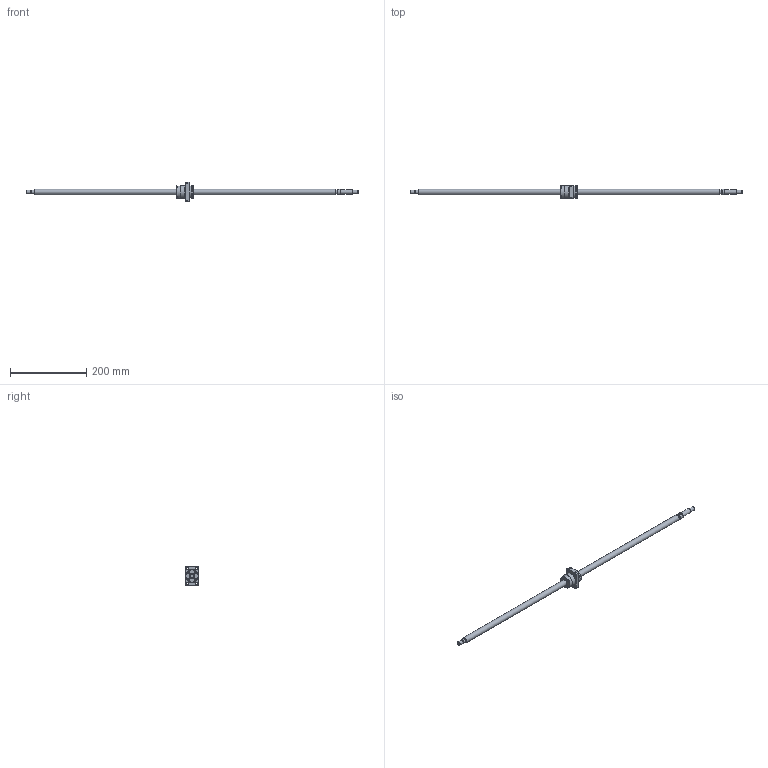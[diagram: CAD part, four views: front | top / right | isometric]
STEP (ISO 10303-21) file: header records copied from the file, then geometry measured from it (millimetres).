
FILE_DESCRIPTION(/* description */ ('STEP AP203'),/* implementation_level */ '2;1');
FILE_NAME(/* name */ 'BNK1510-5.6G0+871LC5Y(416.50)',/* time_stamp */ '2024-07-09T09:23:25+02:00',/* author */ ('License CC BY-ND 4.0'),/* organization */ ('CADENAS'),/* preprocessor_version */ 'ST-DEVELOPER v19.3',/* originating_system */ 'PARTsolutions',/* authorisation */ ' ');
FILE_SCHEMA (('CONFIG_CONTROL_DESIGN'));
Length unit declared in the file: millimetre
Products named in the file (3): BNK1510-5.6G0+871LC5Y(416.50); BNK 1510-5.6G0+871LC5Y Shaft; BNK 1510-5.6G0+871LC5Y0 Nut
Assembly tree (2 placements, depth 2):
  BNK1510-5.6G0+871LC5Y(416.50)
    BNK 1510-5.6G0+871LC5Y Shaft
    BNK 1510-5.6G0+871LC5Y0 Nut
Bounding box: 871 x 34 x 50 mm (x, y, z)
Volume: 184521.1 mm3; surface area: 52333.6 mm2
Topology: 2 solids, 2 shells, 137 faces, 313 edges, 202 vertices
Faces by surface type: plane 76, cylinder 35, cone 20, torus 6
Full cylindrical faces by diameter (mm): 5.188 x1, 5.5 x8, 9.5 x4, 9.6 x1, 10 x3, 12 x1, 13 x1, 15 x3, 30.6 x1, 33 x2, 34 x2
Entity records: 3729 total; most frequent: CARTESIAN_POINT 677, DIRECTION 632, ORIENTED_EDGE 534, EDGE_CURVE 267, AXIS2_PLACEMENT_3D 249, FACE_BOUND 211, EDGE_LOOP 210, VERTEX_POINT 198
